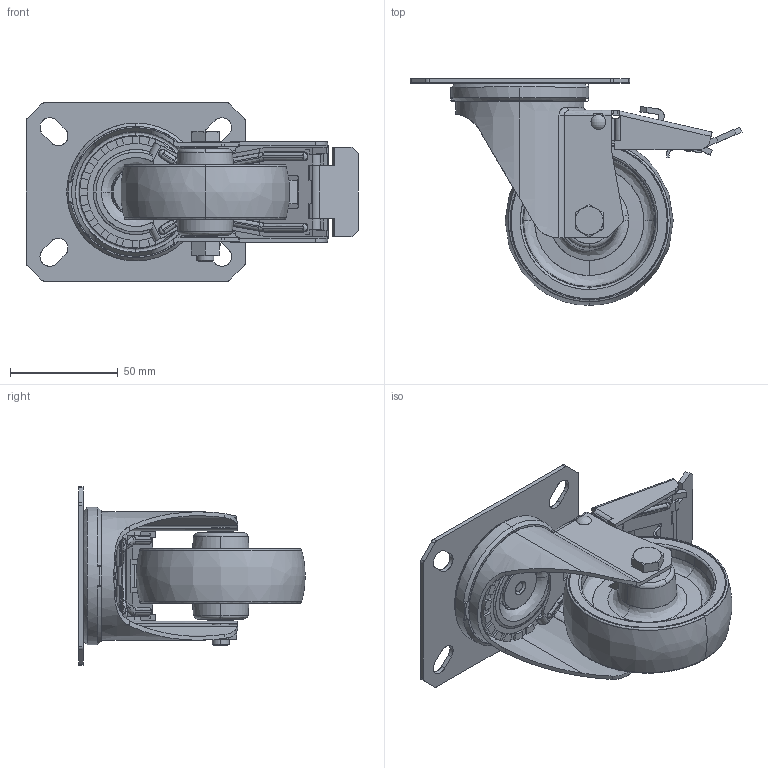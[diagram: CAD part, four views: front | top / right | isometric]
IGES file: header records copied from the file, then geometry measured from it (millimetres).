
Start section: SolidWorks IGES file using analytic representation for surfaces
Global section: file name: C:\Users\MarkoLa\Desktop\IGES\400965_IGES.IGS; native system: SolidWorks 2017; preprocessor: SolidWorks 2017; author: markola; date: 170411.084728; units: millimetre
Bounding box: 154.18 x 105.2 x 83 mm (x, y, z)
Surface area: 81535.7 mm2 (no closed solid volume)
Topology: 0 solids, 0 shells, 638 faces, 7859 edges, 7853 vertices
Faces by surface type: bspline 425, revolution 213
